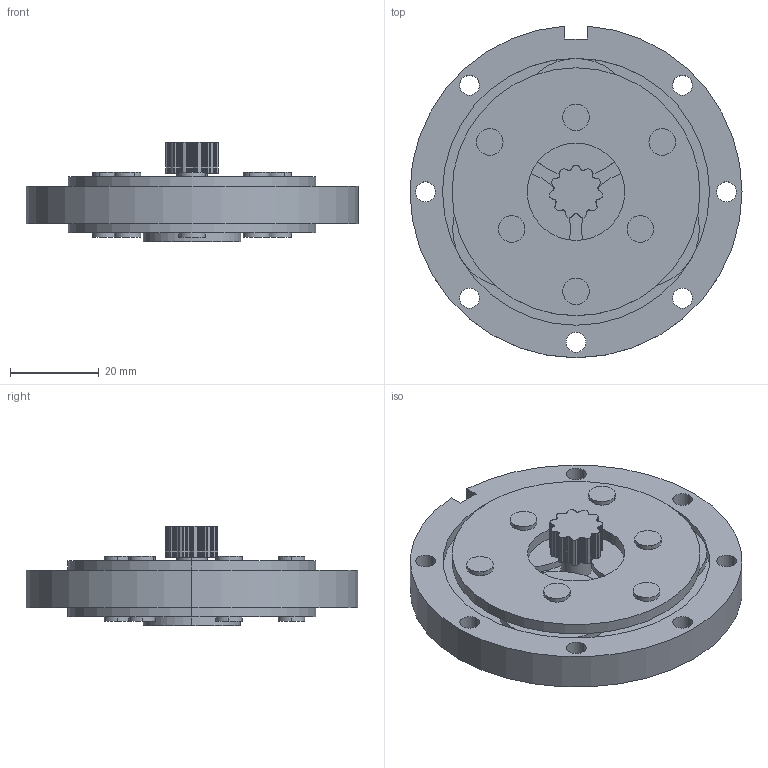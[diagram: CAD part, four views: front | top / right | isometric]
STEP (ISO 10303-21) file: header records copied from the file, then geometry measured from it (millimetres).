
FILE_DESCRIPTION (( 'STEP AP203' ), '1' );
FILE_NAME ('LGU75-7MLD.step', '2021-07-23T02:29:25', ( '' ), ( '' ), 'SwSTEP 2.0', 'SolidWorks 2021', '' );
FILE_SCHEMA (( 'CONFIG_CONTROL_DESIGN' ));
Length unit declared in the file: millimetre
Products named in the file (1): LGU75-7MLD
Bounding box: 75 x 74.92 x 22.5 mm (x, y, z)
Volume: 40849.1 mm3; surface area: 23936.4 mm2
Topology: 1 solids, 1 shells, 422 faces, 1179 edges, 786 vertices
Faces by surface type: cylinder 390, plane 32
Entity records: 14172 total; most frequent: DIRECTION 2805, CARTESIAN_POINT 2388, ORIENTED_EDGE 2358, AXIS2_PLACEMENT_3D 1203, EDGE_CURVE 1179, VERTEX_POINT 786, CIRCLE 780, EDGE_LOOP 475
